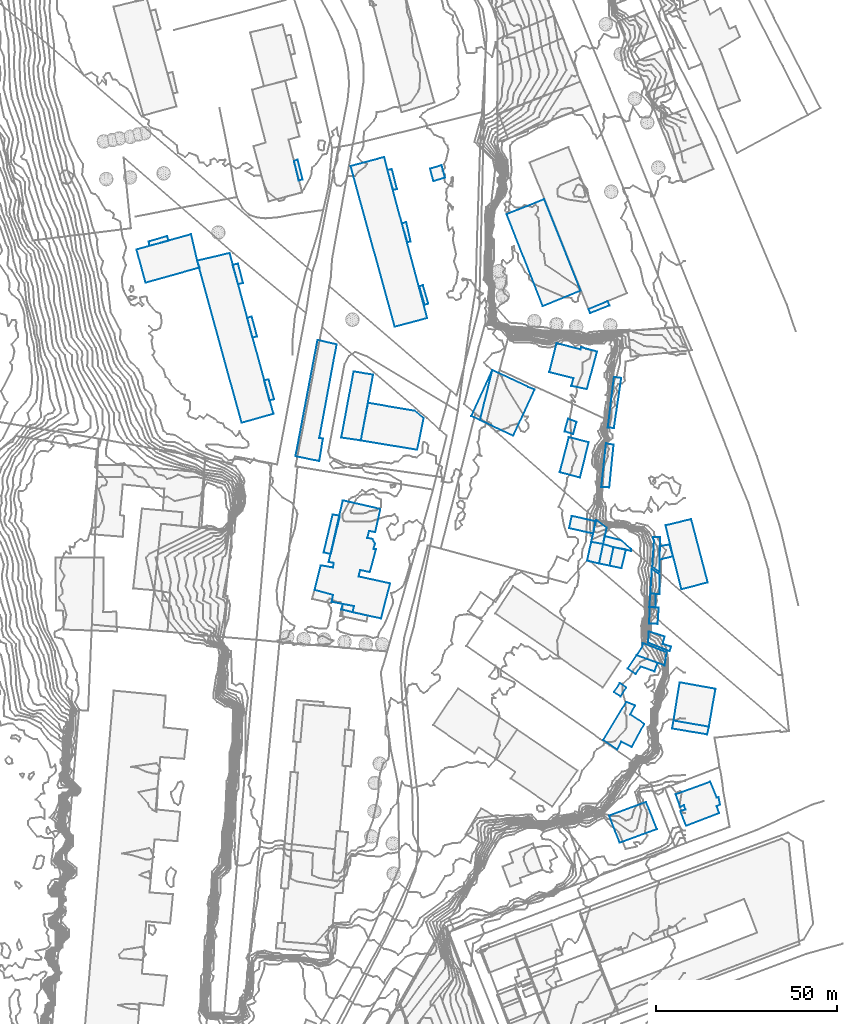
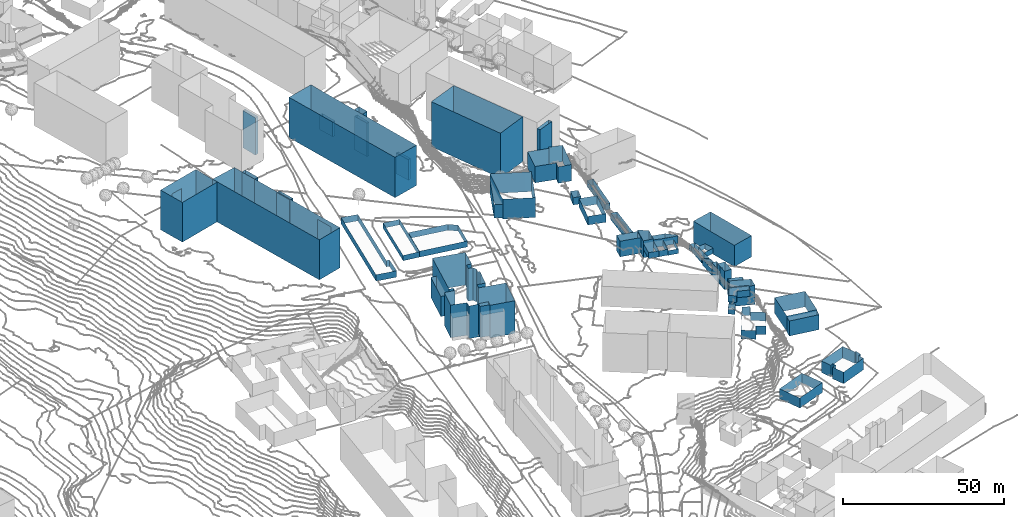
# Not in any storey, part 68 of 419: 48 walls.
"""IFC2X3 model written with IfcOpenShell, lengths in metres."""

from ifc_helpers import new_model, si_unit, frame, origin_with_axes, place, context, subcontext, project, faceted_brep, element, save


model = new_model("IFC2X3")

# Units and contexts
model_context = context("Model", 3, precision=1e-05, world=origin_with_axes())
body_context = subcontext(model_context, "Body", "Model", "MODEL_VIEW")
ifc_project = project(units=[si_unit("AREAUNIT", "SQUARE_METRE"), si_unit("LENGTHUNIT", "METRE")], contexts=[model_context])

# Walls
wall_1_placement = place(None, frame((966.4920204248, 798.5976909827, 87.6229010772), z_axis=(0.0, 0.0, 1.0), x_axis=(1.0, 0.0, 0.0)))
element("IfcWall", 1, at=wall_1_placement, Name="Mur 0", context=body_context, shape_type="Brep", body=[
    faceted_brep([(0.0, 0.0, 6.9770989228), (0.2, 3.0999999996, 6.9770989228), (0.0, 0.0, 0.0), (0.2, 3.0999999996, 0.0), (2.4, -0.1000000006, 6.9770989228), (2.4, -0.1000000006, 0.0), (2.7, 4.3999999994, 6.9770989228), (2.7, 4.3999999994, 0.0), (0.1, 4.5999999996, 6.9770989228), (0.1, 4.5999999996, 0.0)], [[[0, 1, 2]], [[2, 1, 3]], [[4, 0, 5]], [[5, 0, 2]], [[6, 4, 7]], [[7, 4, 5]], [[1, 8, 3]], [[3, 8, 9]], [[8, 6, 9]], [[9, 6, 7]]]),
])
wall_2_placement = place(None, frame((919.6920204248, 854.8976909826, 96.6100009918), z_axis=(0.0, 0.0, 1.0), x_axis=(1.0, 0.0, 0.0)))
element("IfcWall", 2, at=wall_2_placement, Name="Mur 0", context=body_context, shape_type="Brep", body=[
    faceted_brep([(3.4, 13.9000000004, 7.4899990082), (13.4, 9.2000000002, 7.4899990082), (3.4, 13.9000000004, 0.0), (13.4, 9.2000000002, 0.0), (0.0, 0.0, 7.4899990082), (0.0, 0.0, 0.0), (9.2000000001, -4.2999999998, 7.4899990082), (9.2000000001, -4.2999999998, 0.0), (15.1, 8.5, 7.4899990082), (15.1, 8.5, 0.0)], [[[0, 1, 2]], [[2, 1, 3]], [[4, 0, 5]], [[5, 0, 2]], [[6, 4, 7]], [[7, 4, 5]], [[1, 8, 3]], [[3, 8, 9]], [[8, 6, 9]], [[9, 6, 7]]]),
])
wall_3_placement = place(None, frame((953.7920204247, 766.2976909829, 93.1307992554), z_axis=(0.0, 0.0, 1.0), x_axis=(1.0, 0.0, 0.0)))
element("IfcWall", 3, at=wall_3_placement, Name="Mur 0", context=body_context, shape_type="Brep", body=[
    faceted_brep([(0.0, 0.0, 3.2692007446), (6.4, 10.5999999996, 3.2692007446), (0.0, 0.0, 0.0), (6.4, 10.5999999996, 0.0), (3.9, -2.6000000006, 3.2692007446), (3.9, -2.6000000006, 0.0), (5.0, -0.4000000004, 3.2692007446), (5.0, -0.4000000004, 0.0), (7.9, -1.9000000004, 3.2692007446), (7.9, -1.9000000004, 0.0), (11.4, 4.5, 3.2692007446), (11.4, 4.5, 0.0), (7.5, 7.0999999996, 3.2692007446), (7.5, 7.0999999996, 0.0), (8.8, 9.5999999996, 3.2692007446), (8.8, 9.5999999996, 0.0)], [[[0, 1, 2]], [[2, 1, 3]], [[4, 0, 5]], [[5, 0, 2]], [[6, 4, 7]], [[7, 4, 5]], [[8, 6, 9]], [[9, 6, 7]], [[10, 8, 11]], [[11, 8, 9]], [[12, 10, 13]], [[13, 10, 11]], [[1, 14, 3]], [[3, 14, 15]], [[14, 12, 15]], [[15, 12, 13]]]),
])
wall_4_placement = place(None, frame((972.8920204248, 769.4976909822, 85.5200004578), z_axis=(0.0, 0.0, 1.0), x_axis=(1.0, 0.0, 0.0)))
element("IfcWall", 4, at=wall_4_placement, Name="Mur 0", context=body_context, shape_type="Brep", body=[
    faceted_brep([(0.0, 0.0, 5.6799995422), (0.3999999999, 2.2000000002, 5.6799995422), (0.0, 0.0, 0.0), (0.3999999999, 2.2000000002, 0.0), (9.7, -1.5999999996, 5.6799995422), (9.7, -1.5999999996, 0.0), (10.2, 0.5, 5.6799995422), (10.2, 0.5, 0.0)], [[[0, 1, 2]], [[2, 1, 3]], [[4, 0, 5]], [[5, 0, 2]], [[1, 6, 3]], [[3, 6, 7]], [[6, 4, 7]], [[7, 4, 5]]]),
])
wall_5_placement = place(None, frame((953.7920204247, 820.5976909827, 94.747599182), z_axis=(0.0, 0.0, 1.0), x_axis=(1.0, 0.0, 0.0)))
element("IfcWall", 5, at=wall_5_placement, Name="Mur 0", context=body_context, shape_type="Brep", body=[
    faceted_brep([(2.9, -0.9000000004, 2.852400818), (0.0, 0.0, 2.852400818), (2.9, -0.9000000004, 0.0), (0.0, 0.0, 0.0), (7.7000000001, -1.9000000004, 2.852400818), (7.7000000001, -1.9000000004, 0.0), (7.8, -1.4000000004, 2.852400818), (7.8, -1.4000000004, 0.0), (4.8, 1.0999999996, 2.852400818), (4.8, 1.0999999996, 0.0), (0.4, 2.2000000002, 2.852400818), (0.4, 2.2000000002, 0.0)], [[[0, 1, 2]], [[2, 1, 3]], [[4, 0, 5]], [[5, 0, 2]], [[6, 4, 7]], [[7, 4, 5]], [[8, 6, 9]], [[9, 6, 7]], [[1, 10, 3]], [[3, 10, 11]], [[10, 8, 11]], [[11, 8, 9]]]),
])
wall_6_placement = place(None, frame((955.4920204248, 745.3976909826, 82.5194986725), z_axis=(0.0, 0.0, 1.0), x_axis=(1.0, 0.0, 0.0)))
element("IfcWall", 6, at=wall_6_placement, Name="Mur 0", context=body_context, shape_type="Brep", body=[
    faceted_brep([(0.0, 0.0, 3.7805013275), (10.2, 3.7999999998, 3.7805013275), (0.0, 0.0, 0.0), (10.2, 3.7999999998, 0.0), (2.9, -7.5, 3.7805013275), (2.9, -7.5, 0.0), (13.2, -3.7000000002, 3.7805013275), (13.2, -3.7000000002, 0.0)], [[[0, 1, 2]], [[2, 1, 3]], [[4, 0, 5]], [[5, 0, 2]], [[1, 6, 3]], [[3, 6, 7]], [[6, 4, 7]], [[7, 4, 5]]]),
])
wall_7_placement = place(None, frame((973.8920204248, 751.2976909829, 82.4180023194), z_axis=(0.0, 0.0, 1.0), x_axis=(1.0, 0.0, 0.0)))
element("IfcWall", 7, at=wall_7_placement, Name="Mur 0", context=body_context, shape_type="Brep", body=[
    faceted_brep([(1.2999999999, -4.7000000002, 4.3819976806), (1.6, -4.5, 4.3819976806), (1.2999999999, -4.7000000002, 0.0), (1.6, -4.5, 0.0), (2.8999999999, -8.7000000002, 4.3819976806), (2.8999999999, -8.7000000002, 0.0), (12.0, -5.2000000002, 4.3819976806), (12.0, -5.2000000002, 0.0), (11.3999999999, -3.3000000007, 4.3819976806), (11.3999999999, -3.3000000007, 0.0), (12.2999999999, -2.8000000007, 4.3819976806), (12.2999999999, -2.8000000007, 0.0), (11.8999999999, -0.8000000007, 4.3819976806), (11.8999999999, -0.8000000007, 0.0), (11.3999999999, -0.9000000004, 4.3819976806), (11.3999999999, -0.9000000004, 0.0), (9.6, 3.5, 4.3819976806), (9.6, 3.5, 0.0), (0.0, 0.0, 4.3819976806), (0.0, 0.0, 0.0), (1.2999999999, -3.5, 4.3819976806), (1.2999999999, -3.5, 0.0), (2.2999999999, -3.0, 4.3819976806), (2.2999999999, -3.0, 0.0), (2.7, -4.2000000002, 4.3819976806), (2.7, -4.2000000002, 0.0)], [[[0, 1, 2]], [[2, 1, 3]], [[4, 0, 5]], [[5, 0, 2]], [[6, 4, 7]], [[7, 4, 5]], [[8, 6, 9]], [[9, 6, 7]], [[10, 8, 11]], [[11, 8, 9]], [[12, 10, 13]], [[13, 10, 11]], [[14, 12, 15]], [[15, 12, 13]], [[16, 14, 17]], [[17, 14, 15]], [[18, 16, 19]], [[19, 16, 17]], [[20, 18, 21]], [[21, 18, 19]], [[22, 20, 23]], [[23, 20, 21]], [[1, 24, 3]], [[3, 24, 25]], [[24, 22, 25]], [[25, 22, 23]]]),
])
wall_8_placement = place(None, frame((971.0920204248, 825.7976909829, 87.4388011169), z_axis=(0.0, 0.0, 1.0), x_axis=(1.0, 0.0, 0.0)))
element("IfcWall", 8, at=wall_8_placement, Name="Mur 0", context=body_context, shape_type="Brep", body=[
    faceted_brep([(4.4, -17.7000000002, 8.0611988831), (2.1, -8.6000000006, 8.0611988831), (4.4, -17.7000000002, 0.0), (2.1, -8.6000000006, 0.0), (11.7, -15.8000000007, 8.0611988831), (11.7, -15.8000000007, 0.0), (7.1, 1.6999999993, 8.0611988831), (7.1, 1.6999999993, 0.0), (0.0, 0.0, 8.0611988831), (0.0, 0.0, 0.0)], [[[0, 1, 2]], [[2, 1, 3]], [[4, 0, 5]], [[5, 0, 2]], [[6, 4, 7]], [[7, 4, 5]], [[1, 8, 3]], [[3, 8, 9]], [[8, 6, 9]], [[9, 6, 7]]]),
])
wall_9_placement = place(None, frame((969.3920204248, 816.2976909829, 87.8224008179), z_axis=(0.0, 0.0, 1.0), x_axis=(1.0, 0.0, 0.0)))
element("IfcWall", 9, at=wall_9_placement, Name="Mur 0", context=body_context, shape_type="Brep", body=[
    faceted_brep([(3.7999999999, 0.8999999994, 1.9775991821), (0.0, 0.0, 1.9775991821), (3.7999999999, 0.8999999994, 0.0), (0.0, 0.0, 0.0), (2.7999999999, 4.1999999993, 1.9775991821), (2.7999999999, 4.1999999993, 0.0), (0.1, 3.6999999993, 1.9775991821), (0.1, 3.6999999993, 0.0)], [[[0, 1, 2]], [[2, 1, 3]], [[4, 0, 5]], [[5, 0, 2]], [[1, 6, 3]], [[3, 6, 7]], [[6, 4, 7]], [[7, 4, 5]]]),
])
wall_10_placement = place(None, frame((859.8920204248, 865.9976909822, 97.2720973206), z_axis=(0.0, 0.0, 1.0), x_axis=(1.0, 0.0, 0.0)))
element("IfcWall", 10, at=wall_10_placement, Name="Mur 0", context=body_context, shape_type="Brep", body=[
    faceted_brep([(2.7999999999, -5.2999999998, 13.4279026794), (1.5, -5.5999999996, 13.4279026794), (2.7999999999, -5.2999999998, 0.0), (1.5, -5.5999999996, 0.0), (1.2999999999, 0.2000000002, 13.4279026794), (1.2999999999, 0.2000000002, 0.0), (0.0, 0.0, 13.4279026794), (0.0, 0.0, 0.0)], [[[0, 1, 2]], [[2, 1, 3]], [[4, 0, 5]], [[5, 0, 2]], [[1, 6, 3]], [[3, 6, 7]], [[6, 4, 7]], [[7, 4, 5]]]),
])
wall_11_placement = place(None, frame((873.8920204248, 807.8976909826, 96.2265022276), z_axis=(0.0, 0.0, 1.0), x_axis=(1.0, 0.0, 0.0)))
element("IfcWall", 11, at=wall_11_placement, Name="Mur 0", context=body_context, shape_type="Brep", body=[
    faceted_brep([(5.1, -1.4000000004, 12.3734977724), (0.0, 0.0, 12.3734977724), (5.1, -1.4000000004, 0.0), (0.0, 0.0, 0.0), (4.7, -3.2999999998, 12.3734977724), (4.7, -3.2999999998, 0.0), (10.8999999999, -4.5, 12.3734977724), (10.8999999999, -4.5, 0.0), (10.5, -6.2000000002, 12.3734977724), (10.5, -6.2000000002, 0.0), (18.3999999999, -7.9000000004, 12.3734977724), (18.3999999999, -7.9000000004, 0.0), (20.8999999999, 1.7999999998, 12.3734977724), (20.8999999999, 1.7999999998, 0.0), (12.2, 3.7000000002, 12.3734977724), (12.2, 3.7000000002, 0.0), (12.6, 5.5, 12.3734977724), (12.6, 5.5, 0.0), (15.2999999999, 4.9000000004, 12.3734977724), (15.2999999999, 4.9000000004, 0.0), (17.0, 11.2999999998, 12.3734977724), (17.0, 11.2999999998, 0.0), (16.2999999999, 11.2999999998, 12.3734977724), (16.2999999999, 11.2999999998, 0.0), (16.7, 12.7999999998, 12.3734977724), (16.7, 12.7999999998, 0.0), (16.1, 14.0999999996, 12.3734977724), (16.1, 14.0999999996, 0.0), (14.6, 14.4000000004, 12.3734977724), (14.6, 14.4000000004, 0.0), (15.1, 16.2999999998, 12.3734977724), (15.1, 16.2999999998, 0.0), (16.7999999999, 16.0, 12.3734977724), (16.7999999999, 16.0, 0.0), (18.2, 22.4000000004, 12.3734977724), (18.2, 22.4000000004, 0.0), (7.7999999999, 24.7999999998, 12.3734977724), (7.7999999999, 24.7999999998, 0.0), (3.8999999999, 7.7000000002, 12.3734977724), (3.8999999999, 7.7000000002, 0.0), (5.2999999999, 7.5, 12.3734977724), (5.2999999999, 7.5, 0.0), (5.1, 6.2000000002, 12.3734977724), (5.1, 6.2000000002, 0.0), (1.7, 6.7999999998, 12.3734977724), (1.7, 6.7999999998, 0.0)], [[[0, 1, 2]], [[2, 1, 3]], [[4, 0, 5]], [[5, 0, 2]], [[6, 4, 7]], [[7, 4, 5]], [[8, 6, 9]], [[9, 6, 7]], [[10, 8, 11]], [[11, 8, 9]], [[12, 10, 13]], [[13, 10, 11]], [[14, 12, 15]], [[15, 12, 13]], [[16, 14, 17]], [[17, 14, 15]], [[18, 16, 19]], [[19, 16, 17]], [[20, 18, 21]], [[21, 18, 19]], [[22, 20, 23]], [[23, 20, 21]], [[24, 22, 25]], [[25, 22, 23]], [[26, 24, 27]], [[27, 24, 25]], [[28, 26, 29]], [[29, 26, 27]], [[30, 28, 31]], [[31, 28, 29]], [[32, 30, 33]], [[33, 30, 31]], [[34, 32, 35]], [[35, 32, 33]], [[36, 34, 37]], [[37, 34, 35]], [[38, 36, 39]], [[39, 36, 37]], [[40, 38, 41]], [[41, 38, 39]], [[42, 40, 43]], [[43, 40, 41]], [[1, 44, 3]], [[3, 44, 45]], [[44, 42, 45]], [[45, 42, 43]]]),
])
wall_12_placement = place(None, frame((955.0920204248, 852.8976909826, 88.6566027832), z_axis=(0.0, 0.0, 1.0), x_axis=(1.0, 0.0, 0.0)))
element("IfcWall", 12, at=wall_12_placement, Name="Mur 0", context=body_context, shape_type="Brep", body=[
    faceted_brep([(0.0, 0.0, 2.3433972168), (1.7, 14.0, 2.3433972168), (0.0, 0.0, 0.0), (1.7, 14.0, 0.0), (1.7, -0.2000000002, 2.3433972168), (1.7, -0.2000000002, 0.0), (3.7, 13.7000000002, 2.3433972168), (3.7, 13.7000000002, 0.0)], [[[0, 1, 2]], [[2, 1, 3]], [[4, 0, 5]], [[5, 0, 2]], [[1, 6, 3]], [[3, 6, 7]], [[6, 4, 7]], [[7, 4, 5]]]),
])
wall_13_placement = place(None, frame((851.1920204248, 897.8976909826, 97.4899997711), z_axis=(0.0, 0.0, 1.0), x_axis=(1.0, 0.0, 0.0)))
element("IfcWall", 13, at=wall_13_placement, Name="Mur 0", context=body_context, shape_type="Brep", body=[
    faceted_brep([(1.5, -5.2999999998, 14.8100002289), (0.0, 0.0, 14.8100002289), (1.5, -5.2999999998, 0.0), (0.0, 0.0, 0.0), (2.9, -5.0, 14.8100002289), (2.9, -5.0, 0.0), (1.5, 0.4000000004, 14.8100002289), (1.5, 0.4000000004, 0.0)], [[[0, 1, 2]], [[2, 1, 3]], [[4, 0, 5]], [[5, 0, 2]], [[1, 6, 3]], [[3, 6, 7]], [[6, 4, 7]], [[7, 4, 5]]]),
])
wall_14_placement = place(None, frame((956.7920204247, 779.5976909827, 93.3320007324), z_axis=(0.0, 0.0, 1.0), x_axis=(1.0, 0.0, 0.0)))
element("IfcWall", 14, at=wall_14_placement, Name="Mur 0", context=body_context, shape_type="Brep", body=[
    faceted_brep([(0.0, 0.0, 1.7679992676), (1.6000000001, 2.5, 1.7679992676), (0.0, 0.0, 0.0), (1.6000000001, 2.5, 0.0), (1.8, -1.2000000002, 1.7679992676), (1.8, -1.2000000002, 0.0), (3.4, 1.2999999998, 1.7679992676), (3.4, 1.2999999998, 0.0)], [[[0, 1, 2]], [[2, 1, 3]], [[4, 0, 5]], [[5, 0, 2]], [[1, 6, 3]], [[3, 6, 7]], [[6, 4, 7]], [[7, 4, 5]]]),
])
wall_15_placement = place(None, frame((927.0920204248, 911.9976909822, 86.8095017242), z_axis=(0.0, 0.0, 1.0), x_axis=(1.0, 0.0, 0.0)))
element("IfcWall", 15, at=wall_15_placement, Name="Mur 0", context=body_context, shape_type="Brep", body=[
    faceted_brep([(10.4, 4.1000000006, 16.9904982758), (20.5, -21.1999999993, 16.9904982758), (10.4, 4.1000000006, 0.0), (20.5, -21.1999999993, 0.0), (0.0, 0.0, 16.9904982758), (0.0, 0.0, 0.0), (10.0, -25.5, 16.9904982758), (10.0, -25.5, 0.0)], [[[0, 1, 2]], [[2, 1, 3]], [[4, 0, 5]], [[5, 0, 2]], [[1, 6, 3]], [[3, 6, 7]], [[6, 4, 7]], [[7, 4, 5]]]),
])
wall_16_placement = place(None, frame((886.6920204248, 849.2976909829, 97.1301996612), z_axis=(0.0, 0.0, 1.0), x_axis=(1.0, 0.0, 0.0)))
element("IfcWall", 16, at=wall_16_placement, Name="Mur 0", context=body_context, shape_type="Brep", body=[
    faceted_brep([(14.9, 8.1999999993, 2.2698003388), (17.4, 6.1999999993, 2.2698003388), (14.9, 8.1999999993, 0.0), (17.4, 6.1999999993, 0.0), (2.0, 10.3999999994, 2.2698003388), (2.0, 10.3999999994, 0.0), (0.0, 0.0, 2.2698003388), (0.0, 0.0, 0.0), (15.6, -2.6000000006, 2.2698003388), (15.6, -2.6000000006, 0.0)], [[[0, 1, 2]], [[2, 1, 3]], [[4, 0, 5]], [[5, 0, 2]], [[6, 4, 7]], [[7, 4, 5]], [[1, 8, 3]], [[3, 8, 9]], [[8, 6, 9]], [[9, 6, 7]]]),
])
wall_17_placement = place(None, frame((963.0920204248, 789.7976909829, 87.6648019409), z_axis=(0.0, 0.0, 1.0), x_axis=(1.0, 0.0, 0.0)))
element("IfcWall", 17, at=wall_17_placement, Name="Mur 0", context=body_context, shape_type="Brep", body=[
    faceted_brep([(8.3, 0.7999999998, 7.1351980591), (7.7, -2.8000000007, 7.1351980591), (8.3, 0.7999999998, 0.0), (7.7, -2.8000000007, 0.0), (1.7, 3.3999999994, 7.1351980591), (1.7, 3.3999999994, 0.0), (1.7, 2.6999999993, 7.1351980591), (1.7, 2.6999999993, 0.0), (0.0, 0.0, 7.1351980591), (0.0, 0.0, 0.0)], [[[0, 1, 2]], [[2, 1, 3]], [[4, 0, 5]], [[5, 0, 2]], [[6, 4, 7]], [[7, 4, 5]], [[1, 8, 3]], [[3, 8, 9]], [[8, 6, 9]], [[9, 6, 7]]]),
])
wall_18_placement = place(None, frame((881.2920204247, 850.0976909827, 97.16780159), z_axis=(0.0, 0.0, 1.0), x_axis=(1.0, 0.0, 0.0)))
element("IfcWall", 18, at=wall_18_placement, Name="Mur 0", context=body_context, shape_type="Brep", body=[
    faceted_brep([(3.4, 18.2999999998, 2.03219841), (8.8, 17.3999999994, 2.03219841), (3.4, 18.2999999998, 0.0), (8.8, 17.3999999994, 0.0), (0.0, 0.0, 2.03219841), (0.0, 0.0, 0.0), (5.4, -0.7999999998, 2.03219841), (5.4, -0.7999999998, 0.0)], [[[0, 1, 2]], [[2, 1, 3]], [[4, 0, 5]], [[5, 0, 2]], [[1, 6, 3]], [[3, 6, 7]], [[6, 4, 7]], [[7, 4, 5]]]),
])
wall_19_placement = place(None, frame((881.2920204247, 802.4976909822, 97.0060984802), z_axis=(0.0, 0.0, 1.0), x_axis=(1.0, 0.0, 0.0)))
element("IfcWall", 19, at=wall_19_placement, Name="Mur 0", context=body_context, shape_type="Brep", body=[
    faceted_brep([(3.1000000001, -0.7999999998, 11.7939015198), (0.0, 0.0, 11.7939015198), (3.1000000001, -0.7999999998, 0.0), (0.0, 0.0, 0.0), (3.5, 0.9000000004, 11.7939015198), (3.5, 0.9000000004, 0.0), (0.4, 1.5, 11.7939015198), (0.4, 1.5, 0.0)], [[[0, 1, 2]], [[2, 1, 3]], [[4, 0, 5]], [[5, 0, 2]], [[1, 6, 3]], [[3, 6, 7]], [[6, 4, 7]], [[7, 4, 5]]]),
])
wall_20_placement = place(None, frame((966.8920204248, 806.8976909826, 87.638598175), z_axis=(0.0, 0.0, 1.0), x_axis=(1.0, 0.0, 0.0)))
element("IfcWall", 20, at=wall_20_placement, Name="Mur 0", context=body_context, shape_type="Brep", body=[
    faceted_brep([(2.5, -0.2000000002, 2.361401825), (1.5, -0.0999999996, 2.361401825), (2.5, -0.2000000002, 0.0), (1.5, -0.0999999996, 0.0), (2.5, 5.2000000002, 2.361401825), (2.5, 5.2000000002, 0.0), (0.3999999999, 6.7999999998, 2.361401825), (0.3999999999, 6.7999999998, 0.0), (0.0, 0.0, 2.361401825), (0.0, 0.0, 0.0)], [[[0, 1, 2]], [[2, 1, 3]], [[4, 0, 5]], [[5, 0, 2]], [[6, 4, 7]], [[7, 4, 5]], [[1, 8, 3]], [[3, 8, 9]], [[8, 6, 9]], [[9, 6, 7]]]),
])
wall_21_placement = place(None, frame((953.2920204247, 836.3976909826, 88.0883973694), z_axis=(0.0, 0.0, 1.0), x_axis=(1.0, 0.0, 0.0)))
element("IfcWall", 21, at=wall_21_placement, Name="Mur 0", context=body_context, shape_type="Brep", body=[
    faceted_brep([(1.3, 12.0999999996, 2.4116026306), (3.4, 11.7000000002, 2.4116026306), (1.3, 12.0999999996, 0.0), (3.4, 11.7000000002, 0.0), (0.0, 0.0, 2.4116026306), (0.0, 0.0, 0.0), (2.2000000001, -0.0999999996, 2.4116026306), (2.2000000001, -0.0999999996, 0.0)], [[[0, 1, 2]], [[2, 1, 3]], [[4, 0, 5]], [[5, 0, 2]], [[1, 6, 3]], [[3, 6, 7]], [[6, 4, 7]], [[7, 4, 5]]]),
])
wall_22_placement = place(None, frame((967.3920204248, 814.2976909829, 87.8290016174), z_axis=(0.0, 0.0, 1.0), x_axis=(1.0, 0.0, 0.0)))
element("IfcWall", 22, at=wall_22_placement, Name="Mur 0", context=body_context, shape_type="Brep", body=[
    faceted_brep([(2.2, 8.1999999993, 1.9709983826), (2.0, -1.5, 1.9709983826), (2.2, 8.1999999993, 0.0), (2.0, -1.5, 0.0), (0.2, 8.1999999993, 1.9709983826), (0.2, 8.1999999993, 0.0), (0.5, 7.1999999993, 1.9709983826), (0.5, 7.1999999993, 0.0), (0.0, 0.0, 1.9709983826), (0.0, 0.0, 0.0)], [[[0, 1, 2]], [[2, 1, 3]], [[4, 0, 5]], [[5, 0, 2]], [[6, 4, 7]], [[7, 4, 5]], [[1, 8, 3]], [[3, 8, 9]], [[8, 6, 9]], [[9, 6, 7]]]),
])
wall_23_placement = place(None, frame((966.5920204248, 803.1976909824, 87.7783999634), z_axis=(0.0, 0.0, 1.0), x_axis=(1.0, 0.0, 0.0)))
element("IfcWall", 23, at=wall_23_placement, Name="Mur 0", context=body_context, shape_type="Brep", body=[
    faceted_brep([(1.8, -0.2000000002, 4.9216000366), (0.0, 0.0, 4.9216000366), (1.8, -0.2000000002, 0.0), (0.0, 0.0, 0.0), (1.8, 3.6000000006, 4.9216000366), (1.8, 3.6000000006, 0.0), (0.3, 3.7000000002, 4.9216000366), (0.3, 3.7000000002, 0.0)], [[[0, 1, 2]], [[2, 1, 3]], [[4, 0, 5]], [[5, 0, 2]], [[1, 6, 3]], [[3, 6, 7]], [[6, 4, 7]], [[7, 4, 5]]]),
])
wall_24_placement = place(None, frame((868.1920204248, 926.6976909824, 98.0819992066), z_axis=(0.0, 0.0, 1.0), x_axis=(1.0, 0.0, 0.0)))
element("IfcWall", 24, at=wall_24_placement, Name="Mur 0", context=body_context, shape_type="Brep", body=[
    faceted_brep([(2.4, -5.0999999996, 14.1180007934), (1.3, -5.3999999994, 14.1180007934), (2.4, -5.0999999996, 0.0), (1.3, -5.3999999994, 0.0), (1.0, 0.4000000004, 14.1180007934), (1.0, 0.4000000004, 0.0), (0.0, 0.0, 14.1180007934), (0.0, 0.0, 0.0)], [[[0, 1, 2]], [[2, 1, 3]], [[4, 0, 5]], [[5, 0, 2]], [[1, 6, 3]], [[3, 6, 7]], [[6, 4, 7]], [[7, 4, 5]]]),
])
wall_25_placement = place(None, frame((883.8920204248, 925.2976909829, 97.2430023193), z_axis=(0.0, 0.0, 1.0), x_axis=(1.0, 0.0, 0.0)))
element("IfcWall", 25, at=wall_25_placement, Name="Mur 0", context=body_context, shape_type="Brep", body=[
    faceted_brep([(9.2999999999, 2.5, 15.2569976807), (10.2, -1.1000000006, 15.2569976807), (9.2999999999, 2.5, 0.0), (10.2, -1.1000000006, 0.0), (0.0, 0.0, 15.2569976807), (0.0, 0.0, 0.0), (12.2, -44.5, 15.2569976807), (12.2, -44.5, 0.0), (21.2, -42.1000000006, 15.2569976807), (21.2, -42.1000000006, 0.0)], [[[0, 1, 2]], [[2, 1, 3]], [[4, 0, 5]], [[5, 0, 2]], [[6, 4, 7]], [[7, 4, 5]], [[1, 8, 3]], [[3, 8, 9]], [[8, 6, 9]], [[9, 6, 7]]]),
])
wall_26_placement = place(None, frame((960.5920204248, 786.0976909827, 92.645898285), z_axis=(0.0, 0.0, 1.0), x_axis=(1.0, 0.0, 0.0)))
element("IfcWall", 26, at=wall_26_placement, Name="Mur 0", context=body_context, shape_type="Brep", body=[
    faceted_brep([(2.5, 3.7000000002, 2.454101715), (8.3, 1.5999999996, 2.454101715), (2.5, 3.7000000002, 0.0), (8.3, 1.5999999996, 0.0), (0.0, 0.0, 2.454101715), (0.0, 0.0, 0.0), (2.2, -1.5, 2.454101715), (2.2, -1.5, 0.0), (3.6, 0.5999999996, 2.454101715), (3.6, 0.5999999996, 0.0), (7.4, -0.7999999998, 2.454101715), (7.4, -0.7999999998, 0.0)], [[[0, 1, 2]], [[2, 1, 3]], [[4, 0, 5]], [[5, 0, 2]], [[6, 4, 7]], [[7, 4, 5]], [[8, 6, 9]], [[9, 6, 7]], [[1, 10, 3]], [[3, 10, 11]], [[10, 8, 11]], [[11, 8, 9]]]),
])
wall_27_placement = place(None, frame((950.4920204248, 821.1976909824, 91.573501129), z_axis=(0.0, 0.0, 1.0), x_axis=(1.0, 0.0, 0.0)))
element("IfcWall", 27, at=wall_27_placement, Name="Mur 0", context=body_context, shape_type="Brep", body=[
    faceted_brep([(3.2999999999, -0.5999999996, 6.426498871), (0.0, 0.0, 6.426498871), (3.2999999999, -0.5999999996, 0.0), (0.0, 0.0, 0.0), (4.2999999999, 3.9000000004, 6.426498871), (4.2999999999, 3.9000000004, 0.0), (1.4, 6.1000000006, 6.426498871), (1.4, 6.1000000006, 0.0)], [[[0, 1, 2]], [[2, 1, 3]], [[4, 0, 5]], [[5, 0, 2]], [[1, 6, 3]], [[3, 6, 7]], [[6, 4, 7]], [[7, 4, 5]]]),
])
wall_28_placement = place(None, frame((894.0920204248, 924.1976909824, 97.4109981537), z_axis=(0.0, 0.0, 1.0), x_axis=(1.0, 0.0, 0.0)))
element("IfcWall", 28, at=wall_28_placement, Name="Mur 0", context=body_context, shape_type="Brep", body=[
    faceted_brep([(1.6, -5.5, 5.5890018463), (0.0, 0.0, 5.5890018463), (1.6, -5.5, 0.0), (0.0, 0.0, 0.0), (2.6, -5.2999999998, 5.5890018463), (2.6, -5.2999999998, 0.0), (1.2, 0.2000000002, 5.5890018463), (1.2, 0.2000000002, 0.0)], [[[0, 1, 2]], [[2, 1, 3]], [[4, 0, 5]], [[5, 0, 2]], [[1, 6, 3]], [[3, 6, 7]], [[6, 4, 7]], [[7, 4, 5]]]),
])
wall_29_placement = place(None, frame((973.2920204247, 771.6976909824, 85.6960006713), z_axis=(0.0, 0.0, 1.0), x_axis=(1.0, 0.0, 0.0)))
element("IfcWall", 29, at=wall_29_placement, Name="Mur 0", context=body_context, shape_type="Brep", body=[
    faceted_brep([(9.8, -1.7000000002, 5.9039993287), (0.0, 0.0, 5.9039993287), (9.8, -1.7000000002, 0.0), (0.0, 0.0, 0.0), (11.6000000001, 8.7999999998, 5.9039993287), (11.6000000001, 8.7999999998, 0.0), (1.7000000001, 10.6000000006, 5.9039993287), (1.7000000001, 10.6000000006, 0.0)], [[[0, 1, 2]], [[2, 1, 3]], [[4, 0, 5]], [[5, 0, 2]], [[1, 6, 3]], [[3, 6, 7]], [[6, 4, 7]], [[7, 4, 5]]]),
])
wall_30_placement = place(None, frame((943.0920204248, 851.7976909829, 95.6379974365), z_axis=(0.0, 0.0, 1.0), x_axis=(1.0, 0.0, 0.0)))
element("IfcWall", 30, at=wall_30_placement, Name="Mur 0", context=body_context, shape_type="Brep", body=[
    faceted_brep([(3.3, 2.5999999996, 2.7620025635), (2.4, -0.7000000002, 2.7620025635), (3.3, 2.5999999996, 0.0), (2.4, -0.7000000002, 0.0), (1.0, 3.5, 2.7620025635), (1.0, 3.5, 0.0), (0.0, 0.0, 2.7620025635), (0.0, 0.0, 0.0)], [[[0, 1, 2]], [[2, 1, 3]], [[4, 0, 5]], [[5, 0, 2]], [[1, 6, 3]], [[3, 6, 7]], [[6, 4, 7]], [[7, 4, 5]]]),
])
wall_31_placement = place(None, frame((944.3920204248, 824.9976909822, 91.7925010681), z_axis=(0.0, 0.0, 1.0), x_axis=(1.0, 0.0, 0.0)))
element("IfcWall", 31, at=wall_31_placement, Name="Mur 0", context=body_context, shape_type="Brep", body=[
    faceted_brep([(7.2999999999, 1.9000000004, 5.9074989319), (6.6, -1.5, 5.9074989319), (7.2999999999, 1.9000000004, 0.0), (6.6, -1.5, 0.0), (0.7, 3.4000000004, 5.9074989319), (0.7, 3.4000000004, 0.0), (0.0, 0.0, 5.9074989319), (0.0, 0.0, 0.0)], [[[0, 1, 2]], [[2, 1, 3]], [[4, 0, 5]], [[5, 0, 2]], [[1, 6, 3]], [[3, 6, 7]], [[6, 4, 7]], [[7, 4, 5]]]),
])
wall_32_placement = place(None, frame((917.2920204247, 856.0976909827, 97.0349990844), z_axis=(0.0, 0.0, 1.0), x_axis=(1.0, 0.0, 0.0)))
element("IfcWall", 32, at=wall_32_placement, Name="Mur 0", context=body_context, shape_type="Brep", body=[
    faceted_brep([(5.8, 12.7000000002, 5.1650009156), (2.4, -1.2000000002, 5.1650009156), (5.8, 12.7000000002, 0.0), (2.4, -1.2000000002, 0.0), (0.0, 0.0, 5.1650009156), (0.0, 0.0, 0.0)], [[[0, 1, 2]], [[2, 1, 3]], [[1, 4, 3]], [[3, 4, 5]], [[4, 0, 5]], [[5, 0, 2]]]),
])
wall_33_placement = place(None, frame((955.5920204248, 814.5976909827, 94.7439998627), z_axis=(0.0, 0.0, 1.0), x_axis=(1.0, 0.0, 0.0)))
element("IfcWall", 33, at=wall_33_placement, Name="Mur 0", context=body_context, shape_type="Brep", body=[
    faceted_brep([(3.3, -0.7000000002, 1.7560001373), (0.0, 0.0, 1.7560001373), (3.3, -0.7000000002, 0.0), (0.0, 0.0, 0.0), (4.5, 4.5, 1.7560001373), (4.5, 4.5, 0.0), (1.1, 5.0999999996, 1.7560001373), (1.1, 5.0999999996, 0.0)], [[[0, 1, 2]], [[2, 1, 3]], [[4, 0, 5]], [[5, 0, 2]], [[1, 6, 3]], [[3, 6, 7]], [[6, 4, 7]], [[7, 4, 5]]]),
])
wall_34_placement = place(None, frame((827.9920204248, 904.3976909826, 97.4119995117), z_axis=(0.0, 0.0, 1.0), x_axis=(1.0, 0.0, 0.0)))
element("IfcWall", 34, at=wall_34_placement, Name="Mur 0", context=body_context, shape_type="Brep", body=[
    faceted_brep([(5.1, 1.5, 10.7880004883), (5.5, 0.2000000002, 10.7880004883), (5.1, 1.5, 0.0), (5.5, 0.2000000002, 0.0), (0.0, 0.0, 10.7880004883), (0.0, 0.0, 0.0), (0.1, -1.2000000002, 10.7880004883), (0.1, -1.2000000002, 0.0)], [[[0, 1, 2]], [[2, 1, 3]], [[4, 0, 5]], [[5, 0, 2]], [[1, 6, 3]], [[3, 6, 7]], [[6, 4, 7]], [[7, 4, 5]]]),
])
wall_35_placement = place(None, frame((876.3920204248, 818.2976909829, 97.1100028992), z_axis=(0.0, 0.0, 1.0), x_axis=(1.0, 0.0, 0.0)))
element("IfcWall", 35, at=wall_35_placement, Name="Mur 0", context=body_context, shape_type="Brep", body=[
    faceted_brep([(4.5, 10.0999999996, 7.5899971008), (2.0, -0.5, 7.5899971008), (4.5, 10.0999999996, 0.0), (2.0, -0.5, 0.0), (2.5, 10.5, 7.5899971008), (2.5, 10.5, 0.0), (0.0, 0.0, 7.5899971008), (0.0, 0.0, 0.0)], [[[0, 1, 2]], [[2, 1, 3]], [[4, 0, 5]], [[5, 0, 2]], [[1, 6, 3]], [[3, 6, 7]], [[6, 4, 7]], [[7, 4, 5]]]),
])
wall_36_placement = place(None, frame((868.5920204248, 844.8976909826, 97.0700003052), z_axis=(0.0, 0.0, 1.0), x_axis=(1.0, 0.0, 0.0)))
element("IfcWall", 36, at=wall_36_placement, Name="Mur 0", context=body_context, shape_type="Brep", body=[
    faceted_brep([(6.1, 32.2000000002, 2.4299996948), (11.4, 31.0, 2.4299996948), (6.1, 32.2000000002, 0.0), (11.4, 31.0, 0.0), (0.0, 0.0, 2.4299996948), (0.0, 0.0, 0.0), (6.6, -1.2999999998, 2.4299996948), (6.6, -1.2999999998, 0.0), (7.6, 4.9000000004, 2.4299996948), (7.6, 4.9000000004, 0.0), (6.6, 5.0999999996, 2.4299996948), (6.6, 5.0999999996, 0.0)], [[[0, 1, 2]], [[2, 1, 3]], [[4, 0, 5]], [[5, 0, 2]], [[6, 4, 7]], [[7, 4, 5]], [[8, 6, 9]], [[9, 6, 7]], [[1, 10, 3]], [[3, 10, 11]], [[10, 8, 11]], [[11, 8, 9]]]),
])
wall_37_placement = place(None, frame((841.3920204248, 899.0976909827, 97.1165977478), z_axis=(0.0, 0.0, 1.0), x_axis=(1.0, 0.0, 0.0)))
element("IfcWall", 37, at=wall_37_placement, Name="Mur 0", context=body_context, shape_type="Brep", body=[
    faceted_brep([(0.0, 0.0, 15.1834022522), (9.0, 2.0999999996, 15.1834022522), (0.0, 0.0, 0.0), (9.0, 2.0999999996, 0.0), (12.2999999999, -44.9000000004, 15.1834022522), (12.2999999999, -44.9000000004, 0.0), (21.1, -42.4000000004, 15.1834022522), (21.1, -42.4000000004, 0.0)], [[[0, 1, 2]], [[2, 1, 3]], [[4, 0, 5]], [[5, 0, 2]], [[1, 6, 3]], [[3, 6, 7]], [[6, 4, 7]], [[7, 4, 5]]]),
])
wall_38_placement = place(None, frame((824.5920204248, 902.1976909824, 97.1800010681), z_axis=(0.0, 0.0, 1.0), x_axis=(1.0, 0.0, 0.0)))
element("IfcWall", 38, at=wall_38_placement, Name="Mur 0", context=body_context, shape_type="Brep", body=[
    faceted_brep([(15.1, 4.2000000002, 15.0199989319), (16.8, -3.0999999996, 15.0199989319), (15.1, 4.2000000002, 0.0), (16.8, -3.0999999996, 0.0), (0.0, 0.0, 15.0199989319), (0.0, 0.0, 0.0), (2.5, -9.2000000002, 15.0199989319), (2.5, -9.2000000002, 0.0), (17.5, -5.0, 15.0199989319), (17.5, -5.0, 0.0)], [[[0, 1, 2]], [[2, 1, 3]], [[4, 0, 5]], [[5, 0, 2]], [[6, 4, 7]], [[7, 4, 5]], [[1, 8, 3]], [[3, 8, 9]], [[8, 6, 9]], [[9, 6, 7]]]),
])
wall_39_placement = place(None, frame((905.8920204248, 924.5976909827, 96.9644007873), z_axis=(0.0, 0.0, 1.0), x_axis=(1.0, 0.0, 0.0)))
element("IfcWall", 39, at=wall_39_placement, Name="Mur 0", context=body_context, shape_type="Brep", body=[
    faceted_brep([(4.1, -2.5, 3.0355992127), (0.8999999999, -3.5, 3.0355992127), (4.1, -2.5, 0.0), (0.8999999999, -3.5, 0.0), (3.2, 0.8999999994, 3.0355992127), (3.2, 0.8999999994, 0.0), (0.0, 0.0, 3.0355992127), (0.0, 0.0, 0.0)], [[[0, 1, 2]], [[2, 1, 3]], [[4, 0, 5]], [[5, 0, 2]], [[1, 6, 3]], [[3, 6, 7]], [[6, 4, 7]], [[7, 4, 5]]]),
])
wall_40_placement = place(None, frame((898.0920204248, 909.3976909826, 97.3251992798), z_axis=(0.0, 0.0, 1.0), x_axis=(1.0, 0.0, 0.0)))
element("IfcWall", 40, at=wall_40_placement, Name="Mur 0", context=body_context, shape_type="Brep", body=[
    faceted_brep([(1.5, -5.2000000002, 12.6748007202), (0.0, 0.0, 12.6748007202), (1.5, -5.2000000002, 0.0), (0.0, 0.0, 0.0), (2.4, -5.0, 12.6748007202), (2.4, -5.0, 0.0), (1.2, 0.4000000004, 12.6748007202), (1.2, 0.4000000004, 0.0)], [[[0, 1, 2]], [[2, 1, 3]], [[4, 0, 5]], [[5, 0, 2]], [[1, 6, 3]], [[3, 6, 7]], [[6, 4, 7]], [[7, 4, 5]]]),
])
wall_41_placement = place(None, frame((902.8920204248, 891.9976909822, 97.1960021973), z_axis=(0.0, 0.0, 1.0), x_axis=(1.0, 0.0, 0.0)))
element("IfcWall", 41, at=wall_41_placement, Name="Mur 0", context=body_context, shape_type="Brep", body=[
    faceted_brep([(2.5, -4.7999999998, 7.8039978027), (1.5, -5.0999999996, 7.8039978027), (2.5, -4.7999999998, 0.0), (1.5, -5.0999999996, 0.0), (1.0, 0.3000000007, 7.8039978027), (1.0, 0.3000000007, 0.0), (0.0, 0.0, 7.8039978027), (0.0, 0.0, 0.0)], [[[0, 1, 2]], [[2, 1, 3]], [[4, 0, 5]], [[5, 0, 2]], [[1, 6, 3]], [[3, 6, 7]], [[6, 4, 7]], [[7, 4, 5]]]),
])
wall_42_placement = place(None, frame((949.3920204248, 815.9976909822, 94.8127993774), z_axis=(0.0, 0.0, 1.0), x_axis=(1.0, 0.0, 0.0)))
element("IfcWall", 42, at=wall_42_placement, Name="Mur 0", context=body_context, shape_type="Brep", body=[
    faceted_brep([(3.2999999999, -0.7999999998, 2.2872006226), (0.0, 0.0, 2.2872006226), (3.2999999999, -0.7999999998, 0.0), (0.0, 0.0, 0.0), (4.3999999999, 4.6000000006, 2.2872006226), (4.3999999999, 4.6000000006, 0.0), (1.1, 5.2000000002, 2.2872006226), (1.1, 5.2000000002, 0.0)], [[[0, 1, 2]], [[2, 1, 3]], [[4, 0, 5]], [[5, 0, 2]], [[1, 6, 3]], [[3, 6, 7]], [[6, 4, 7]], [[7, 4, 5]]]),
])
wall_43_placement = place(None, frame((966.2920204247, 793.2976909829, 87.1719985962), z_axis=(0.0, 0.0, 1.0), x_axis=(1.0, 0.0, 0.0)))
element("IfcWall", 43, at=wall_43_placement, Name="Mur 0", context=body_context, shape_type="Brep", body=[
    faceted_brep([(6.3, -1.1000000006, 6.0280014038), (5.9, -2.4000000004, 6.0280014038), (6.3, -1.1000000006, 0.0), (5.9, -2.4000000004, 0.0), (4.0, -0.4000000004, 6.0280014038), (4.0, -0.4000000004, 0.0), (4.5, 1.6999999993, 6.0280014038), (4.5, 1.6999999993, 0.0), (0.1000000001, 3.0999999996, 6.0280014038), (0.1000000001, 3.0999999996, 0.0), (0.0, 0.0, 6.0280014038), (0.0, 0.0, 0.0)], [[[0, 1, 2]], [[2, 1, 3]], [[4, 0, 5]], [[5, 0, 2]], [[6, 4, 7]], [[7, 4, 5]], [[8, 6, 9]], [[9, 6, 7]], [[1, 10, 3]], [[3, 10, 11]], [[10, 8, 11]], [[11, 8, 9]]]),
])
wall_44_placement = place(None, frame((949.7920204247, 885.6976909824, 86.3489982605), z_axis=(0.0, 0.0, 1.0), x_axis=(1.0, 0.0, 0.0)))
element("IfcWall", 44, at=wall_44_placement, Name="Mur 0", context=body_context, shape_type="Brep", body=[
    faceted_brep([(0.4, -1.0999999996, 15.3510017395), (0.0, 0.0, 15.3510017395), (0.4, -1.0999999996, 0.0), (0.0, 0.0, 0.0), (5.8, 1.0, 15.3510017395), (5.8, 1.0, 0.0), (5.3, 2.2000000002, 15.3510017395), (5.3, 2.2000000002, 0.0)], [[[0, 1, 2]], [[2, 1, 3]], [[4, 0, 5]], [[5, 0, 2]], [[1, 6, 3]], [[3, 6, 7]], [[6, 4, 7]], [[7, 4, 5]]]),
])
wall_45_placement = place(None, frame((952.6920204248, 815.1976909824, 94.8480010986), z_axis=(0.0, 0.0, 1.0), x_axis=(1.0, 0.0, 0.0)))
element("IfcWall", 45, at=wall_45_placement, Name="Mur 0", context=body_context, shape_type="Brep", body=[
    faceted_brep([(2.9, -0.5999999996, 2.2519989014), (0.0, 0.0, 2.2519989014), (2.9, -0.5999999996, 0.0), (0.0, 0.0, 0.0), (4.0, 4.5, 2.2519989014), (4.0, 4.5, 0.0), (1.1, 5.4000000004, 2.2519989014), (1.1, 5.4000000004, 0.0)], [[[0, 1, 2]], [[2, 1, 3]], [[4, 0, 5]], [[5, 0, 2]], [[1, 6, 3]], [[3, 6, 7]], [[6, 4, 7]], [[7, 4, 5]]]),
])
wall_46_placement = place(None, frame((941.7920204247, 840.4976909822, 95.3511987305), z_axis=(0.0, 0.0, 1.0), x_axis=(1.0, 0.0, 0.0)))
element("IfcWall", 46, at=wall_46_placement, Name="Mur 0", context=body_context, shape_type="Brep", body=[
    faceted_brep([(8.0, 8.3000000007, 3.2488012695), (5.6000000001, -1.5, 3.2488012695), (8.0, 8.3000000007, 0.0), (5.6000000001, -1.5, 0.0), (2.5, 9.7000000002, 3.2488012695), (2.5, 9.7000000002, 0.0), (0.0, 0.0, 3.2488012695), (0.0, 0.0, 0.0)], [[[0, 1, 2]], [[2, 1, 3]], [[4, 0, 5]], [[5, 0, 2]], [[1, 6, 3]], [[3, 6, 7]], [[6, 4, 7]], [[7, 4, 5]]]),
])
wall_47_placement = place(None, frame((938.8920204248, 868.1976909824, 95.4949989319), z_axis=(0.0, 0.0, 1.0), x_axis=(1.0, 0.0, 0.0)))
element("IfcWall", 47, at=wall_47_placement, Name="Mur 0", context=body_context, shape_type="Brep", body=[
    faceted_brep([(6.1, -3.7999999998, 6.2050010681), (6.2999999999, -3.0999999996, 6.2050010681), (6.1, -3.7999999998, 0.0), (6.2999999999, -3.0999999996, 0.0), (10.3999999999, -4.7000000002, 6.2050010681), (10.3999999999, -4.7000000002, 0.0), (13.2, 5.7000000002, 6.2050010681), (13.2, 5.7000000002, 0.0), (8.7999999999, 6.9000000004, 6.2050010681), (8.7999999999, 6.9000000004, 0.0), (8.7, 6.2999999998, 6.2050010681), (8.7, 6.2999999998, 0.0), (2.0, 8.0, 6.2050010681), (2.0, 8.0, 0.0), (0.0, 0.0, 6.2050010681), (0.0, 0.0, 0.0), (6.7, -1.7000000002, 6.2050010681), (6.7, -1.7000000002, 0.0)], [[[0, 1, 2]], [[2, 1, 3]], [[4, 0, 5]], [[5, 0, 2]], [[6, 4, 7]], [[7, 4, 5]], [[8, 6, 9]], [[9, 6, 7]], [[10, 8, 11]], [[11, 8, 9]], [[12, 10, 13]], [[13, 10, 11]], [[14, 12, 15]], [[15, 12, 13]], [[1, 16, 3]], [[3, 16, 17]], [[16, 14, 17]], [[17, 14, 15]]]),
])
wall_48_placement = place(None, frame((855.1920204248, 883.2976909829, 97.4233985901), z_axis=(0.0, 0.0, 1.0), x_axis=(1.0, 0.0, 0.0)))
element("IfcWall", 48, at=wall_48_placement, Name="Mur 0", context=body_context, shape_type="Brep", body=[
    faceted_brep([(1.5, -5.5, 14.5766014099), (0.0, 0.0, 14.5766014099), (1.5, -5.5, 0.0), (0.0, 0.0, 0.0), (2.8, -5.2000000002, 14.5766014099), (2.8, -5.2000000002, 0.0), (1.3, 0.2999999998, 14.5766014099), (1.3, 0.2999999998, 0.0)], [[[0, 1, 2]], [[2, 1, 3]], [[4, 0, 5]], [[5, 0, 2]], [[1, 6, 3]], [[3, 6, 7]], [[6, 4, 7]], [[7, 4, 5]]]),
])

save(model, "model.ifc")
